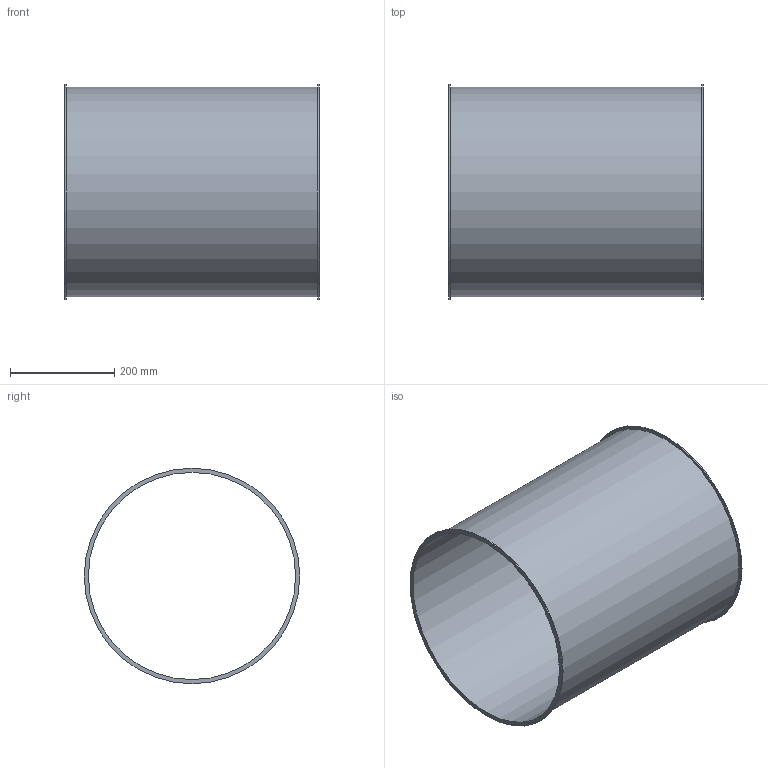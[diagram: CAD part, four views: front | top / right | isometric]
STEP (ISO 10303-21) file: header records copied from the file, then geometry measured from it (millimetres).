
FILE_DESCRIPTION((''),'2;1');
FILE_NAME('U:\Wolfgang\Marcel-3D\fertig\Kapitel 1\4021003.stp','2010-05-31T11:54:23',('TK2'),(''),'Autodesk Inventor 2010','Autodesk Inventor 2010','');
FILE_SCHEMA(('AUTOMOTIVE_DESIGN { 1 0 10303 214 1 1 1 1 }'));
Length unit declared in the file: millimetre
Products named in the file (1): 4021003
Bounding box: 488 x 414 x 414 mm (x, y, z)
Volume: 1257240.2 mm3; surface area: 1262417.6 mm2
Topology: 1 solids, 1 shells, 8 faces, 12 edges, 8 vertices
Faces by surface type: cylinder 4, plane 4
Full cylindrical faces by diameter (mm): 398 x1, 402 x1, 414 x2
Entity records: 194 total; most frequent: DIRECTION 34, CARTESIAN_POINT 25, AXIS2_PLACEMENT_3D 17, ORIENTED_EDGE 16, EDGE_LOOP 16, VERTEX_POINT 8, CIRCLE 8, EDGE_CURVE 8
